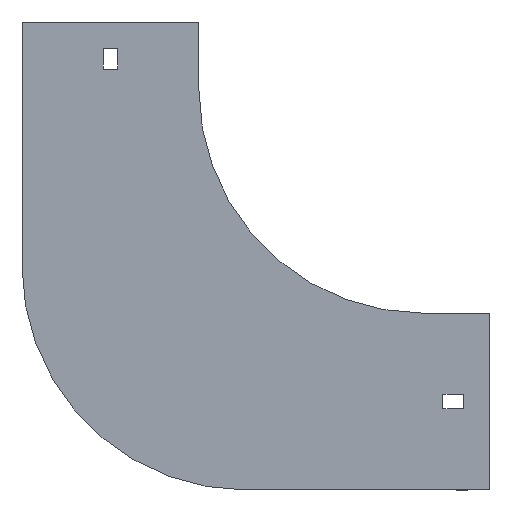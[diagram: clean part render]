
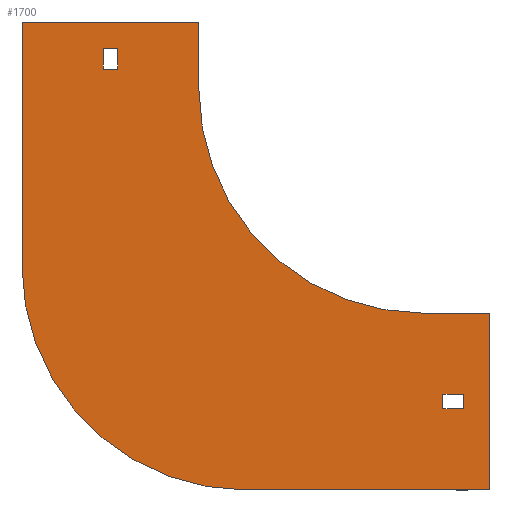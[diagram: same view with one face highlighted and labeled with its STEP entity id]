
A CAD part, front view. The second image highlights one B-rep face of the part: STEP entity #1700.
In plain terms, the highlighted planar face has unit normal (0, -1, 0).
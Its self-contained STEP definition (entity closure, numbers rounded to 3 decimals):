
#16 = AXIS2_PLACEMENT_3D ( 'NONE', #262, #1176, #1472 ) ;
#20 = ORIENTED_EDGE ( 'NONE', *, *, #316, .F. ) ;
#33 = CARTESIAN_POINT ( 'NONE',  ( 18., 0., -142.75 ) ) ;
#49 = CARTESIAN_POINT ( 'NONE',  ( 9., 0., -142.75 ) ) ;
#59 = CARTESIAN_POINT ( 'NONE',  ( -79., 0., -179. ) ) ;
#64 = DIRECTION ( 'NONE',  ( 0., -1., 0. ) ) ;
#85 = LINE ( 'NONE', #1716, #368 ) ;
#91 = ORIENTED_EDGE ( 'NONE', *, *, #97, .F. ) ;
#97 = EDGE_CURVE ( 'NONE', #1842, #449, #846, .T. ) ;
#107 = CIRCLE ( 'NONE', #1219, 100. ) ;
#136 = DIRECTION ( 'NONE',  ( 0., 0., -1. ) ) ;
#139 = VECTOR ( 'NONE', #1679, 1000. ) ;
#144 = DIRECTION ( 'NONE',  ( -1., 0., 0. ) ) ;
#146 = EDGE_CURVE ( 'NONE', #370, #619, #240, .T. ) ;
#193 = EDGE_LOOP ( 'NONE', ( #530, #20, #517, #701, #505, #91, #1534, #318 ) ) ;
#196 = EDGE_CURVE ( 'NONE', #1245, #657, #722, .T. ) ;
#217 = VERTEX_POINT ( 'NONE', #459 ) ;
#240 = LINE ( 'NONE', #1709, #741 ) ;
#259 = EDGE_CURVE ( 'NONE', #580, #1528, #107, .T. ) ;
#262 = CARTESIAN_POINT ( 'NONE',  ( 0., 0., 0. ) ) ;
#268 = EDGE_CURVE ( 'NONE', #1411, #1842, #1473, .T. ) ;
#269 = VECTOR ( 'NONE', #144, 1000. ) ;
#276 = EDGE_CURVE ( 'NONE', #551, #580, #1920, .T. ) ;
#277 = EDGE_CURVE ( 'NONE', #449, #551, #869, .T. ) ;
#293 = CARTESIAN_POINT ( 'NONE',  ( 30., 0., -179. ) ) ;
#316 = EDGE_CURVE ( 'NONE', #1528, #370, #429, .T. ) ;
#318 = ORIENTED_EDGE ( 'NONE', *, *, #1237, .F. ) ;
#324 = EDGE_LOOP ( 'NONE', ( #1347, #969, #1378, #358 ) ) ;
#340 = CARTESIAN_POINT ( 'NONE',  ( -142.75, 0., 18. ) ) ;
#358 = ORIENTED_EDGE ( 'NONE', *, *, #1204, .F. ) ;
#368 = VECTOR ( 'NONE', #816, 1000. ) ;
#370 = VERTEX_POINT ( 'NONE', #425 ) ;
#425 = CARTESIAN_POINT ( 'NONE',  ( -179., 0., 30. ) ) ;
#429 = LINE ( 'NONE', #1022, #746 ) ;
#449 = VERTEX_POINT ( 'NONE', #453 ) ;
#453 = CARTESIAN_POINT ( 'NONE',  ( 30., 0., -100. ) ) ;
#459 = CARTESIAN_POINT ( 'NONE',  ( -142.75, 0., 9. ) ) ;
#481 = LINE ( 'NONE', #33, #1218 ) ;
#490 = EDGE_LOOP ( 'NONE', ( #1425, #1688, #928, #987 ) ) ;
#505 = ORIENTED_EDGE ( 'NONE', *, *, #277, .F. ) ;
#510 = CARTESIAN_POINT ( 'NONE',  ( -142.75, 0., 9. ) ) ;
#514 = FACE_BOUND ( 'NONE', #490, .T. ) ;
#517 = ORIENTED_EDGE ( 'NONE', *, *, #259, .F. ) ;
#530 = ORIENTED_EDGE ( 'NONE', *, *, #146, .F. ) ;
#538 = PLANE ( 'NONE',  #1715 ) ;
#551 = VERTEX_POINT ( 'NONE', #1421 ) ;
#555 = CARTESIAN_POINT ( 'NONE',  ( -100., 0., 30. ) ) ;
#565 = EDGE_CURVE ( 'NONE', #1396, #1245, #1107, .T. ) ;
#580 = VERTEX_POINT ( 'NONE', #59 ) ;
#593 = VECTOR ( 'NONE', #1747, 1000. ) ;
#617 = CARTESIAN_POINT ( 'NONE',  ( -142.75, 0., 9. ) ) ;
#619 = VERTEX_POINT ( 'NONE', #665 ) ;
#657 = VERTEX_POINT ( 'NONE', #1831 ) ;
#665 = CARTESIAN_POINT ( 'NONE',  ( -100., 0., 30. ) ) ;
#684 = VECTOR ( 'NONE', #1003, 1000. ) ;
#701 = ORIENTED_EDGE ( 'NONE', *, *, #276, .F. ) ;
#709 = DIRECTION ( 'NONE',  ( 0., 0., 1. ) ) ;
#722 = LINE ( 'NONE', #1797, #1061 ) ;
#741 = VECTOR ( 'NONE', #1007, 1000. ) ;
#746 = VECTOR ( 'NONE', #709, 1000. ) ;
#757 = CARTESIAN_POINT ( 'NONE',  ( 30., 0., -100. ) ) ;
#796 = CARTESIAN_POINT ( 'NONE',  ( 0., 0., 0. ) ) ;
#816 = DIRECTION ( 'NONE',  ( -1., 0., 0. ) ) ;
#846 = LINE ( 'NONE', #1598, #593 ) ;
#869 = LINE ( 'NONE', #757, #1324 ) ;
#905 = CARTESIAN_POINT ( 'NONE',  ( -79., 0., -79. ) ) ;
#910 = LINE ( 'NONE', #510, #1640 ) ;
#928 = ORIENTED_EDGE ( 'NONE', *, *, #196, .T. ) ;
#929 = EDGE_CURVE ( 'NONE', #1175, #1808, #1408, .T. ) ;
#930 = DIRECTION ( 'NONE',  ( 0., 0., 1. ) ) ;
#969 = ORIENTED_EDGE ( 'NONE', *, *, #1358, .F. ) ;
#987 = ORIENTED_EDGE ( 'NONE', *, *, #1097, .T. ) ;
#993 = VERTEX_POINT ( 'NONE', #1363 ) ;
#1003 = DIRECTION ( 'NONE',  ( 0., 0., -1. ) ) ;
#1007 = DIRECTION ( 'NONE',  ( 1., 0., 0. ) ) ;
#1022 = CARTESIAN_POINT ( 'NONE',  ( -179., 0., -79. ) ) ;
#1061 = VECTOR ( 'NONE', #136, 1000. ) ;
#1081 = LINE ( 'NONE', #617, #1166 ) ;
#1096 = DIRECTION ( 'NONE',  ( 0., 0., -1. ) ) ;
#1097 = EDGE_CURVE ( 'NONE', #657, #217, #1081, .T. ) ;
#1107 = LINE ( 'NONE', #340, #139 ) ;
#1111 = EDGE_CURVE ( 'NONE', #217, #1396, #910, .T. ) ;
#1166 = VECTOR ( 'NONE', #1247, 1000. ) ;
#1175 = VERTEX_POINT ( 'NONE', #1271 ) ;
#1176 = DIRECTION ( 'NONE',  ( 0., -1., 0. ) ) ;
#1194 = CARTESIAN_POINT ( 'NONE',  ( -136.25, 0., 18. ) ) ;
#1204 = EDGE_CURVE ( 'NONE', #1732, #1175, #85, .T. ) ;
#1218 = VECTOR ( 'NONE', #930, 1000. ) ;
#1219 = AXIS2_PLACEMENT_3D ( 'NONE', #905, #1932, #1506 ) ;
#1237 = EDGE_CURVE ( 'NONE', #619, #1411, #1890, .T. ) ;
#1245 = VERTEX_POINT ( 'NONE', #1194 ) ;
#1247 = DIRECTION ( 'NONE',  ( -1., 0., 0. ) ) ;
#1263 = DIRECTION ( 'NONE',  ( 0., 0., -1. ) ) ;
#1271 = CARTESIAN_POINT ( 'NONE',  ( 9., 0., -136.25 ) ) ;
#1274 = FACE_OUTER_BOUND ( 'NONE', #193, .T. ) ;
#1324 = VECTOR ( 'NONE', #1329, 1000. ) ;
#1329 = DIRECTION ( 'NONE',  ( 0., 0., -1. ) ) ;
#1345 = VECTOR ( 'NONE', #1613, 1000. ) ;
#1347 = ORIENTED_EDGE ( 'NONE', *, *, #1459, .F. ) ;
#1358 = EDGE_CURVE ( 'NONE', #1808, #993, #1765, .T. ) ;
#1363 = CARTESIAN_POINT ( 'NONE',  ( 18., 0., -142.75 ) ) ;
#1378 = ORIENTED_EDGE ( 'NONE', *, *, #929, .F. ) ;
#1396 = VERTEX_POINT ( 'NONE', #1936 ) ;
#1408 = LINE ( 'NONE', #49, #1480 ) ;
#1411 = VERTEX_POINT ( 'NONE', #1543 ) ;
#1421 = CARTESIAN_POINT ( 'NONE',  ( 30., 0., -179. ) ) ;
#1425 = ORIENTED_EDGE ( 'NONE', *, *, #1111, .T. ) ;
#1459 = EDGE_CURVE ( 'NONE', #993, #1732, #481, .T. ) ;
#1472 = DIRECTION ( 'NONE',  ( 0., 0., -1. ) ) ;
#1473 = CIRCLE ( 'NONE', #16, 100. ) ;
#1480 = VECTOR ( 'NONE', #1096, 1000. ) ;
#1506 = DIRECTION ( 'NONE',  ( 0., 0., 1. ) ) ;
#1528 = VERTEX_POINT ( 'NONE', #1740 ) ;
#1533 = DIRECTION ( 'NONE',  ( 0., 0., 1. ) ) ;
#1534 = ORIENTED_EDGE ( 'NONE', *, *, #268, .F. ) ;
#1543 = CARTESIAN_POINT ( 'NONE',  ( -100., 0., 0. ) ) ;
#1594 = CARTESIAN_POINT ( 'NONE',  ( 9., 0., -142.75 ) ) ;
#1598 = CARTESIAN_POINT ( 'NONE',  ( 0., 0., -100. ) ) ;
#1613 = DIRECTION ( 'NONE',  ( 1., 0., 0. ) ) ;
#1640 = VECTOR ( 'NONE', #1533, 1000. ) ;
#1679 = DIRECTION ( 'NONE',  ( 1., 0., 0. ) ) ;
#1688 = ORIENTED_EDGE ( 'NONE', *, *, #565, .T. ) ;
#1700 = ADVANCED_FACE ( 'NONE', ( #514, #1274, #1868 ), #538, .T. ) ;
#1703 = CARTESIAN_POINT ( 'NONE',  ( 0., 0., -100. ) ) ;
#1709 = CARTESIAN_POINT ( 'NONE',  ( -179., 0., 30. ) ) ;
#1715 = AXIS2_PLACEMENT_3D ( 'NONE', #796, #64, #1263 ) ;
#1716 = CARTESIAN_POINT ( 'NONE',  ( 9., 0., -136.25 ) ) ;
#1732 = VERTEX_POINT ( 'NONE', #1895 ) ;
#1740 = CARTESIAN_POINT ( 'NONE',  ( -179., 0., -79. ) ) ;
#1747 = DIRECTION ( 'NONE',  ( 1., 0., 0. ) ) ;
#1765 = LINE ( 'NONE', #1776, #1345 ) ;
#1776 = CARTESIAN_POINT ( 'NONE',  ( 9., 0., -142.75 ) ) ;
#1797 = CARTESIAN_POINT ( 'NONE',  ( -136.25, 0., 9. ) ) ;
#1808 = VERTEX_POINT ( 'NONE', #1594 ) ;
#1831 = CARTESIAN_POINT ( 'NONE',  ( -136.25, 0., 9. ) ) ;
#1842 = VERTEX_POINT ( 'NONE', #1703 ) ;
#1868 = FACE_BOUND ( 'NONE', #324, .T. ) ;
#1890 = LINE ( 'NONE', #555, #684 ) ;
#1895 = CARTESIAN_POINT ( 'NONE',  ( 18., 0., -136.25 ) ) ;
#1920 = LINE ( 'NONE', #293, #269 ) ;
#1932 = DIRECTION ( 'NONE',  ( 0., 1., 0. ) ) ;
#1936 = CARTESIAN_POINT ( 'NONE',  ( -142.75, 0., 18. ) ) ;
